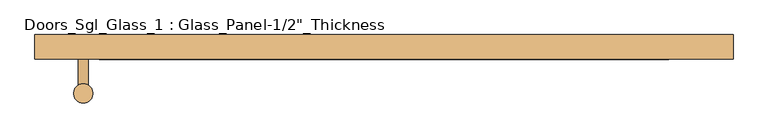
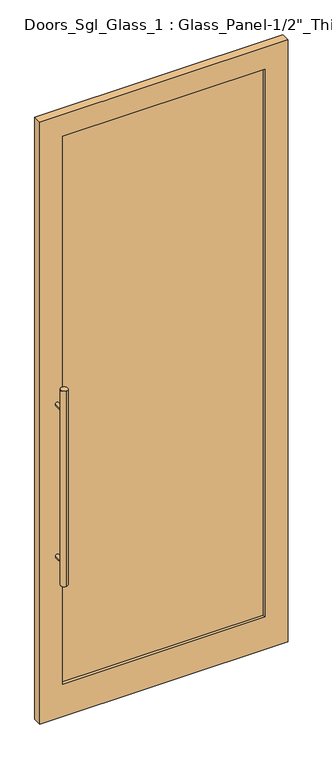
"""IFC4 building model written with IfcOpenShell, lengths in millimetres: door geometry."""

from ifc_helpers import new_model, si_unit, point, frame, frame_2d, origin, place, context, project, spatial, polyline, circle_curve, trimmed, segment, composite_curve, outline, extrude, source, transform, mapped, element, save


def door_1cef34f0(model_context):
    return source(origin(), model_context, "Body", "SweptSolid", [
        extrude(outline(composite_curve([segment(trimmed(circle_curve(frame_2d((-466.370352, -116.0)), 15.0), [point((-466.370352, -101.0))], [point((-466.370352, -131.0))], False, "CARTESIAN"), True, "CONTINUOUS"), segment(trimmed(circle_curve(frame_2d((-466.370352, -116.0)), 15.0), [point((-466.370352, -131.0))], [point((-466.370352, -101.0))], False, "CARTESIAN"), True, "CONTINUOUS")], self_intersect=False)), frame((0.0, 0.0, 650.0), z_axis=(0.0, 0.0, 1.0), x_axis=(1.0, 0.0, 0.0)), (0.0, 0.0, 1.0), 900.0),
        extrude(outline(composite_curve([segment(trimmed(circle_curve(frame_2d((1450.0, -466.370352)), 8.0), [point((1450.0, -458.370352))], [point((1450.0, -474.370352))], False, "CARTESIAN"), True, "CONTINUOUS"), segment(trimmed(circle_curve(frame_2d((1450.0, -466.370352)), 8.0), [point((1450.0, -474.370352))], [point((1450.0, -458.370352))], False, "CARTESIAN"), True, "CONTINUOUS")], self_intersect=False)), frame((0.0, -116.0, 0.0), z_axis=(0.0, 1.0, 0.0), x_axis=(0.0, 0.0, 1.0)), (0.0, 0.0, 1.0), 53.0),
        extrude(outline(composite_curve([segment(trimmed(circle_curve(frame_2d((750.0, -466.370352)), 8.0), [point((750.0, -458.370352))], [point((750.0, -474.370352))], False, "CARTESIAN"), True, "CONTINUOUS"), segment(trimmed(circle_curve(frame_2d((750.0, -466.370352)), 8.0), [point((750.0, -474.370352))], [point((750.0, -458.370352))], False, "CARTESIAN"), True, "CONTINUOUS")], self_intersect=False)), frame((0.0, -116.0, 0.0), z_axis=(0.0, 1.0, 0.0), x_axis=(0.0, 0.0, 1.0)), (0.0, 0.0, 1.0), 53.0),
        extrude(outline(polyline([(0.0, -541.370352), (0.0, 541.370352), (2775.0, 541.370352), (2775.0, -541.370352), (0.0, -541.370352)]), holes=[polyline([(2675.0, 441.370352), (150.0, 441.370352), (150.0, -441.370352), (2675.0, -441.370352), (2675.0, 441.370352)])]), frame((0.0, -63.0, 0.0), z_axis=(0.0, 1.0, 0.0), x_axis=(0.0, 0.0, 1.0)), (0.0, 0.0, 1.0), 38.0),
        extrude(outline(polyline([(441.370352, -50.0), (-441.370352, -50.0), (-441.370352, -38.0), (441.370352, -38.0), (441.370352, -50.0)])), frame((0.0, 0.0, 150.0), z_axis=(0.0, 0.0, 1.0), x_axis=(1.0, 0.0, 0.0)), (0.0, 0.0, 1.0), 2525.0),
    ])


if __name__ == "__main__":
    model = new_model("IFC4")
    model_context = context("Model", 3, world=origin())
    ifc_project = project(units=[si_unit("LENGTHUNIT", "METRE", prefix="MILLI")], contexts=[model_context])
    site = spatial("IfcSite", under=ifc_project)
    building = spatial("IfcBuilding", under=site)
    placement = place(None, origin())
    door_shape = door_1cef34f0(model_context)
    element("IfcDoor", 1, ObjectType="Doors_Sgl_Glass_1 : Glass_Panel-1/2\"_Thickness", at=placement, inside=building, context=model_context, shape_type="MappedRepresentation", body=[
        mapped(door_shape, transform((0.0, 0.0, 0.0), x_axis=(1.0, 0.0, 0.0), y_axis=(0.0, 1.0, 0.0), z_axis=(0.0, 0.0, 1.0))),
    ])
    save(model, "model.ifc")
